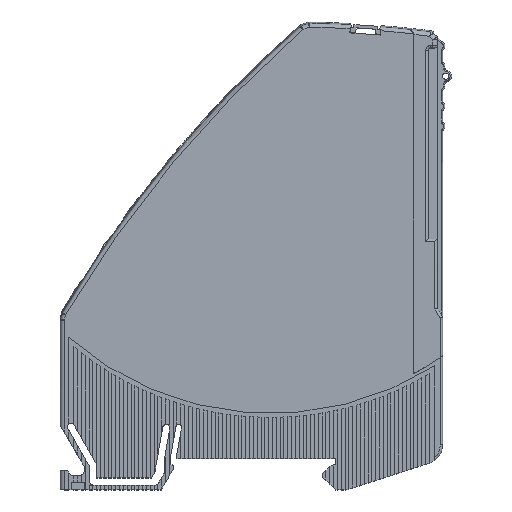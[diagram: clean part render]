
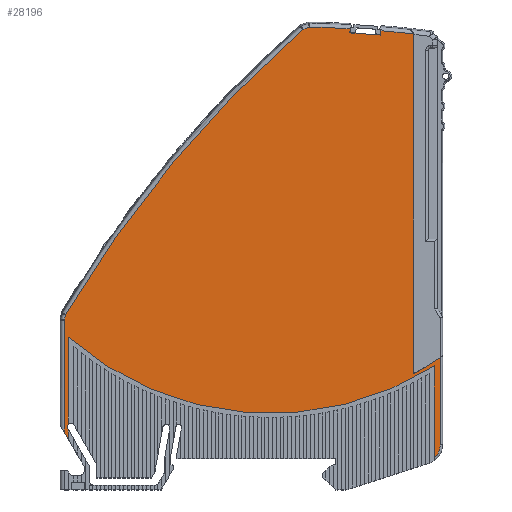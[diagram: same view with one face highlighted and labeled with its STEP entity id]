
A CAD part, top view. The second image highlights one B-rep face of the part: STEP entity #28196.
In plain terms, the highlighted planar face has unit normal (0, 0, 1).
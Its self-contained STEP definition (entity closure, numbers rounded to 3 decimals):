
#2282=CARTESIAN_POINT('',(-37.748,6.7,6.15));
#2283=DIRECTION('',(0.,0.,-1.));
#2284=DIRECTION('',(-0.866,-0.5,0.));
#2285=AXIS2_PLACEMENT_3D('',#2282,#2283,#2284);
#5643=CARTESIAN_POINT('',(38.3,0.268,6.15));
#5649=DIRECTION('',(0.,-1.,0.));
#5650=VECTOR('',#5649,19.2);
#5651=CARTESIAN_POINT('',(38.3,19.468,6.15));
#5652=LINE('',#5651,#5650);
#5657=CARTESIAN_POINT('',(36.,2.906,6.15));
#5658=DIRECTION('',(0.,0.,1.));
#5659=DIRECTION('',(0.657,-0.754,0.));
#5660=AXIS2_PLACEMENT_3D('',#5657,#5658,#5659);
#5662=CARTESIAN_POINT('',(4.,73.5,6.15));
#5663=DIRECTION('',(0.,0.,1.));
#5664=DIRECTION('',(-0.661,-0.75,0.));
#5665=AXIS2_PLACEMENT_3D('',#5662,#5663,#5664);
#5667=DIRECTION('',(0.5,-0.866,0.));
#5668=VECTOR('',#5667,0.282);
#5669=CARTESIAN_POINT('',(-38.441,6.3,6.15));
#5670=LINE('',#5669,#5668);
#5671=DIRECTION('',(0.5,-0.866,0.));
#5672=VECTOR('',#5671,1.8);
#5673=CARTESIAN_POINT('',(-39.2,5.614,6.15));
#5674=LINE('',#5673,#5672);
#5675=DIRECTION('',(0.,1.,0.));
#5676=VECTOR('',#5675,23.431);
#5677=CARTESIAN_POINT('',(-39.2,5.614,6.15));
#5678=LINE('',#5677,#5676);
#5679=CARTESIAN_POINT('',(-39.2,29.046,6.15));
#5680=CARTESIAN_POINT('',(-39.166,29.169,6.15));
#5681=CARTESIAN_POINT('',(-39.099,29.415,6.15));
#5682=CARTESIAN_POINT('',(-38.998,29.785,6.15));
#5683=CARTESIAN_POINT('',(-38.931,30.032,6.15));
#5684=CARTESIAN_POINT('',(-38.897,30.156,6.15));
#5686=CARTESIAN_POINT('',(173.121,-95.689,6.15));
#5687=DIRECTION('',(0.,0.,-1.));
#5688=DIRECTION('',(-0.86,0.51,0.));
#5689=AXIS2_PLACEMENT_3D('',#5686,#5687,#5688);
#5691=CARTESIAN_POINT('',(10.744,89.843,6.15));
#5692=CARTESIAN_POINT('',(11.212,90.014,6.15));
#5693=CARTESIAN_POINT('',(11.681,90.184,6.15));
#5694=CARTESIAN_POINT('',(12.15,90.355,6.15));
#5696=CARTESIAN_POINT('',(7.,-158.5,6.15));
#5697=DIRECTION('',(0.,0.,-1.));
#5698=DIRECTION('',(0.021,1.,0.));
#5699=AXIS2_PLACEMENT_3D('',#5696,#5697,#5698);
#5701=DIRECTION('',(-0.07,-0.998,0.));
#5702=VECTOR('',#5701,0.881);
#5703=CARTESIAN_POINT('',(20.66,90.033,6.15));
#5704=LINE('',#5703,#5702);
#5705=DIRECTION('',(0.998,-0.07,0.));
#5706=VECTOR('',#5705,6.46);
#5707=CARTESIAN_POINT('',(20.598,89.154,6.15));
#5708=LINE('',#5707,#5706);
#5709=DIRECTION('',(0.07,0.998,0.));
#5710=VECTOR('',#5709,0.894);
#5711=CARTESIAN_POINT('',(27.042,88.704,6.15));
#5712=LINE('',#5711,#5710);
#5713=CARTESIAN_POINT('',(7.,-158.5,6.15));
#5714=DIRECTION('',(0.,0.,-1.));
#5715=DIRECTION('',(0.081,0.997,0.));
#5716=AXIS2_PLACEMENT_3D('',#5713,#5714,#5715);
#5718=DIRECTION('',(0.,-1.,0.));
#5719=VECTOR('',#5718,71.177);
#5720=CARTESIAN_POINT('',(33.827,88.958,6.15));
#5721=LINE('',#5720,#5719);
#5722=DIRECTION('',(0.,1.,0.));
#5723=VECTOR('',#5722,18.306);
#5724=CARTESIAN_POINT('',(39.5,2.906,6.15));
#5725=LINE('',#5724,#5723);
#5726=DIRECTION('',(0.,1.,0.));
#5727=VECTOR('',#5726,18.192);
#5728=CARTESIAN_POINT('',(-38.3,7.279,6.15));
#5729=LINE('',#5728,#5727);
#5746=DIRECTION('',(0.,1.,0.));
#5747=VECTOR('',#5746,2.);
#5748=CARTESIAN_POINT('',(-38.3,4.056,6.15));
#5749=LINE('',#5748,#5747);
#9122=CARTESIAN_POINT('',(4.,73.5,6.15));
#9123=DIRECTION('',(0.,0.,-1.));
#9124=DIRECTION('',(0.562,-0.827,0.));
#9125=AXIS2_PLACEMENT_3D('',#9122,#9123,#9124);
#9186=CARTESIAN_POINT('',(33.827,17.781,6.15));
#17305=CARTESIAN_POINT('',(-38.3,25.472,6.15));
#17306=CARTESIAN_POINT('',(38.3,19.468,6.15));
#17307=VERTEX_POINT('',#17305);
#17308=VERTEX_POINT('',#17306);
#18053=CARTESIAN_POINT('',(-38.3,4.056,6.15));
#18054=VERTEX_POINT('',#18053);
#18605=CARTESIAN_POINT('',(-38.3,6.056,6.15));
#18606=VERTEX_POINT('',#18605);
#18667=CARTESIAN_POINT('',(20.598,89.154,6.15));
#18668=CARTESIAN_POINT('',(27.042,88.704,6.15));
#18669=VERTEX_POINT('',#18667);
#18670=VERTEX_POINT('',#18668);
#18804=CARTESIAN_POINT('',(12.15,90.355,6.15));
#18805=CARTESIAN_POINT('',(20.66,90.033,6.15));
#18806=VERTEX_POINT('',#18804);
#18807=VERTEX_POINT('',#18805);
#18814=VERTEX_POINT('',#5691);
#18817=CARTESIAN_POINT('',(-38.897,30.156,6.15));
#18818=VERTEX_POINT('',#18817);
#18824=VERTEX_POINT('',#5679);
#18827=CARTESIAN_POINT('',(-39.2,5.614,6.15));
#18828=VERTEX_POINT('',#18827);
#18841=CARTESIAN_POINT('',(27.105,89.595,6.15));
#18842=VERTEX_POINT('',#18841);
#18855=VERTEX_POINT('',#5643);
#18856=CARTESIAN_POINT('',(39.5,2.906,6.15));
#18857=VERTEX_POINT('',#18856);
#18864=CARTESIAN_POINT('',(39.5,21.212,6.15));
#18865=VERTEX_POINT('',#18864);
#18893=VERTEX_POINT('',#9186);
#18904=CARTESIAN_POINT('',(33.827,88.958,6.15));
#18905=VERTEX_POINT('',#18904);
#19749=CARTESIAN_POINT('',(-38.3,7.279,6.15));
#19751=VERTEX_POINT('',#19749);
#19759=CARTESIAN_POINT('',(-38.441,6.3,6.15));
#19760=VERTEX_POINT('',#19759);
#28155=CARTESIAN_POINT('',(0.,0.,6.15));
#28156=DIRECTION('',(0.,0.,1.));
#28157=DIRECTION('',(1.,0.,0.));
#28158=AXIS2_PLACEMENT_3D('',#28155,#28156,#28157);
#28159=PLANE('',#28158);
#28160=ORIENTED_EDGE('',*,*,#28118,.F.);
#28161=ORIENTED_EDGE('',*,*,#28136,.F.);
#28162=ORIENTED_EDGE('',*,*,#28146,.F.);
#28164=ORIENTED_EDGE('',*,*,#28163,.F.);
#28165=ORIENTED_EDGE('',*,*,#23786,.F.);
#28166=ORIENTED_EDGE('',*,*,#23844,.T.);
#28168=ORIENTED_EDGE('',*,*,#28167,.F.);
#28169=ORIENTED_EDGE('',*,*,#22195,.F.);
#28171=ORIENTED_EDGE('',*,*,#28170,.T.);
#28173=ORIENTED_EDGE('',*,*,#28172,.T.);
#28175=ORIENTED_EDGE('',*,*,#28174,.T.);
#28177=ORIENTED_EDGE('',*,*,#28176,.T.);
#28179=ORIENTED_EDGE('',*,*,#28178,.T.);
#28181=ORIENTED_EDGE('',*,*,#28180,.T.);
#28183=ORIENTED_EDGE('',*,*,#28182,.T.);
#28185=ORIENTED_EDGE('',*,*,#28184,.T.);
#28187=ORIENTED_EDGE('',*,*,#28186,.T.);
#28189=ORIENTED_EDGE('',*,*,#28188,.T.);
#28191=ORIENTED_EDGE('',*,*,#28190,.F.);
#28193=ORIENTED_EDGE('',*,*,#28192,.F.);
#28194=EDGE_LOOP('',(#28160,#28161,#28162,#28164,#28165,#28166,#28168,#28169,
#28171,#28173,#28175,#28177,#28179,#28181,#28183,#28185,#28187,#28189,#28191,
#28193));
#28195=FACE_OUTER_BOUND('',#28194,.F.);
#2286=CIRCLE('',#2285,0.8);
#5661=CIRCLE('',#5660,3.5);
#5666=CIRCLE('',#5665,64.);
#5685=B_SPLINE_CURVE_WITH_KNOTS('',3,(#5679,#5680,#5681,#5682,#5683,#5684),
.UNSPECIFIED.,.F.,.F.,(4,1,1,4),(0.,0.333,0.667,1.),
.UNSPECIFIED.);
#5690=CIRCLE('',#5689,246.553);
#5695=B_SPLINE_CURVE_WITH_KNOTS('',3,(#5691,#5692,#5693,#5694),.UNSPECIFIED.,
.F.,.F.,(4,4),(0.,1.),.UNSPECIFIED.);
#5700=CIRCLE('',#5699,248.908);
#5717=CIRCLE('',#5716,248.908);
#9126=CIRCLE('',#9125,63.2);
#22195=EDGE_CURVE('',#18828,#18054,#5674,.T.);
#23786=EDGE_CURVE('',#19760,#19751,#2286,.T.);
#23844=EDGE_CURVE('',#19760,#18606,#5670,.T.);
#28118=EDGE_CURVE('',#18855,#18857,#5661,.T.);
#28136=EDGE_CURVE('',#17308,#18855,#5652,.T.);
#28146=EDGE_CURVE('',#17307,#17308,#5666,.T.);
#28163=EDGE_CURVE('',#19751,#17307,#5729,.T.);
#28167=EDGE_CURVE('',#18054,#18606,#5749,.T.);
#28170=EDGE_CURVE('',#18828,#18824,#5678,.T.);
#28172=EDGE_CURVE('',#18824,#18818,#5685,.T.);
#28174=EDGE_CURVE('',#18818,#18814,#5690,.T.);
#28176=EDGE_CURVE('',#18814,#18806,#5695,.T.);
#28178=EDGE_CURVE('',#18806,#18807,#5700,.T.);
#28180=EDGE_CURVE('',#18807,#18669,#5704,.T.);
#28182=EDGE_CURVE('',#18669,#18670,#5708,.T.);
#28184=EDGE_CURVE('',#18670,#18842,#5712,.T.);
#28186=EDGE_CURVE('',#18842,#18905,#5717,.T.);
#28188=EDGE_CURVE('',#18905,#18893,#5721,.T.);
#28190=EDGE_CURVE('',#18865,#18893,#9126,.T.);
#28192=EDGE_CURVE('',#18857,#18865,#5725,.T.);
#28196=ADVANCED_FACE('',(#28195),#28159,.T.);
